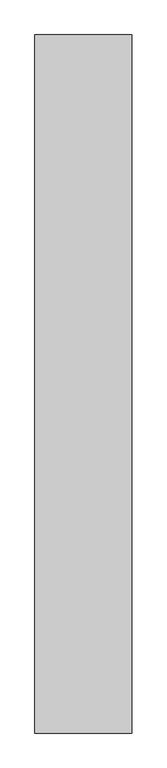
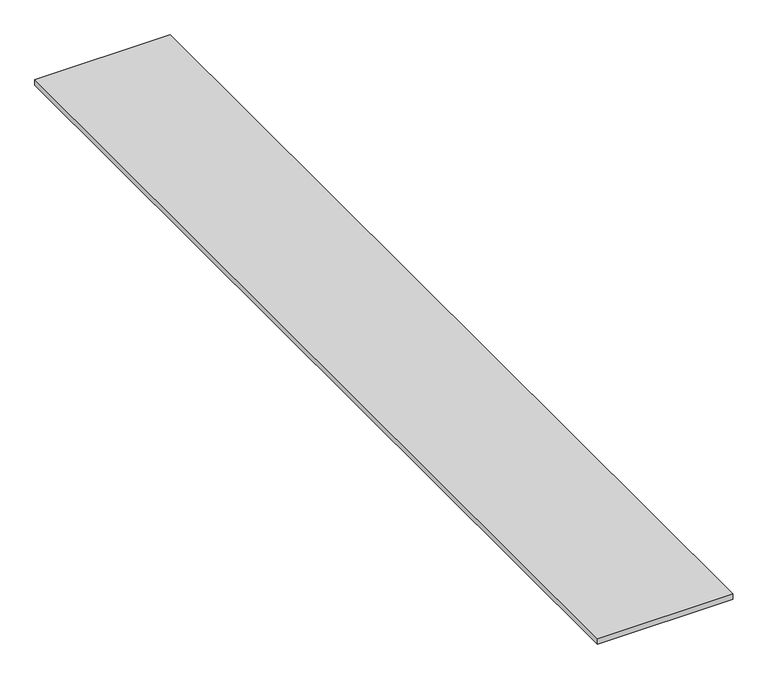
"""IFC4 building model written with IfcOpenShell, lengths in millimetres: furniture geometry, BIMHealth-Worktop_Parametric-LOD2A-v1 : BIMHealth-Worktop_Parametric-LOD2A-v1."""

from ifc_helpers import new_model, si_unit, frame, origin, place, context, project, spatial, polyline, outline, extrude, source, transform, mapped, element, save


def furniture_bcfc0295(model_context):
    return source(origin(), model_context, "Body", "SweptSolid", [
        extrude(outline(polyline([(-550.0, 1434.7174694), (32.0000626, 1434.7174694), (32.0000626, -2765.2825306), (-550.0, -2765.2825306), (-550.0, 1434.7174694)])), frame((0.0, 0.0, 860.0), z_axis=(0.0, 0.0, 1.0), x_axis=(1.0, 0.0, 0.0)), (0.0, 0.0, 1.0), 25.0),
    ])


if __name__ == "__main__":
    model = new_model("IFC4")
    model_context = context("Model", 3, world=origin())
    ifc_project = project(units=[si_unit("LENGTHUNIT", "METRE", prefix="MILLI")], contexts=[model_context])
    site = spatial("IfcSite", under=ifc_project)
    building = spatial("IfcBuilding", under=site)
    placement = place(None, origin())
    furniture_shape = furniture_bcfc0295(model_context)
    element("IfcFurniture", 1, ObjectType="BIMHealth-Worktop_Parametric-LOD2A-v1 : BIMHealth-Worktop_Parametric-LOD2A-v1", at=placement, inside=building, context=model_context, shape_type="MappedRepresentation", body=[
        mapped(furniture_shape, transform((0.0, 0.0, 0.0), x_axis=(1.0, 0.0, 0.0), y_axis=(0.0, 1.0, 0.0), z_axis=(0.0, 0.0, 1.0))),
    ])
    save(model, "model.ifc")
